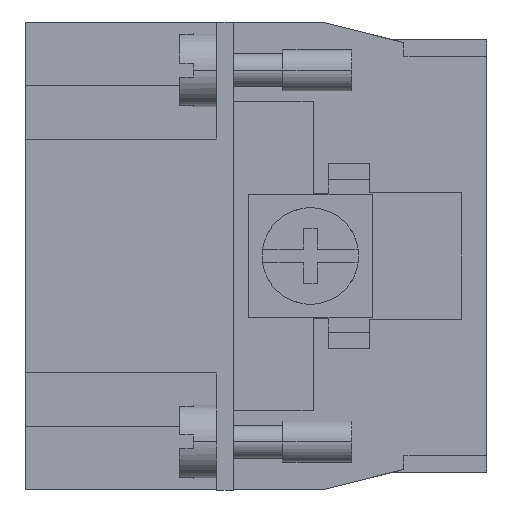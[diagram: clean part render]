
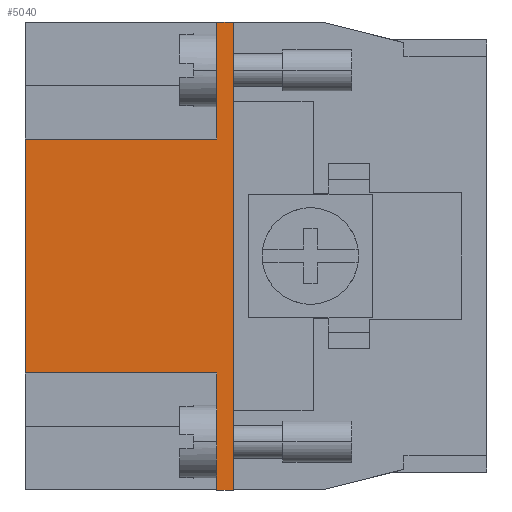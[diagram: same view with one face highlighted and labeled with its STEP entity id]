
A CAD part, left-side view. The second image highlights one B-rep face of the part: STEP entity #5040.
In plain terms, the highlighted planar face has unit normal (-1, 0, 0).
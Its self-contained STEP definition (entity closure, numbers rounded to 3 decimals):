
#6 = EDGE_CURVE ( 'NONE', #2628, #6751, #10240, .T. ) ;
#77 = EDGE_CURVE ( 'NONE', #1078, #6761, #9725, .T. ) ;
#272 = ORIENTED_EDGE ( 'NONE', *, *, #9283, .T. ) ;
#522 = DIRECTION ( 'NONE',  ( 0., 1., 0. ) ) ;
#694 = ORIENTED_EDGE ( 'NONE', *, *, #6, .F. ) ;
#799 = CARTESIAN_POINT ( 'NONE',  ( -25.5, -13.9, 17. ) ) ;
#825 = EDGE_CURVE ( 'NONE', #5358, #3651, #1571, .T. ) ;
#924 = ORIENTED_EDGE ( 'NONE', *, *, #825, .T. ) ;
#1078 = VERTEX_POINT ( 'NONE', #10645 ) ;
#1229 = CARTESIAN_POINT ( 'NONE',  ( -25.5, -13.9, -17. ) ) ;
#1514 = EDGE_LOOP ( 'NONE', ( #10016, #2873, #1913, #4919, #272, #694, #3949, #924 ) ) ;
#1571 = LINE ( 'NONE', #1229, #6891 ) ;
#1913 = ORIENTED_EDGE ( 'NONE', *, *, #3772, .F. ) ;
#2262 = CARTESIAN_POINT ( 'NONE',  ( -25.5, -15.1, -17. ) ) ;
#2291 = LINE ( 'NONE', #6198, #3852 ) ;
#2467 = EDGE_CURVE ( 'NONE', #5358, #2628, #2291, .T. ) ;
#2628 = VERTEX_POINT ( 'NONE', #6493 ) ;
#2775 = AXIS2_PLACEMENT_3D ( 'NONE', #8444, #9121, #6673 ) ;
#2873 = ORIENTED_EDGE ( 'NONE', *, *, #77, .F. ) ;
#3276 = VECTOR ( 'NONE', #4097, 1000. ) ;
#3486 = LINE ( 'NONE', #8117, #10197 ) ;
#3651 = VERTEX_POINT ( 'NONE', #2262 ) ;
#3740 = EDGE_CURVE ( 'NONE', #7647, #5473, #7591, .T. ) ;
#3772 = EDGE_CURVE ( 'NONE', #7647, #1078, #6014, .T. ) ;
#3822 = VECTOR ( 'NONE', #9872, 1000. ) ;
#3852 = VECTOR ( 'NONE', #7121, 1000. ) ;
#3949 = ORIENTED_EDGE ( 'NONE', *, *, #2467, .F. ) ;
#4097 = DIRECTION ( 'NONE',  ( 0., 0., -1. ) ) ;
#4567 = LINE ( 'NONE', #4921, #3276 ) ;
#4919 = ORIENTED_EDGE ( 'NONE', *, *, #3740, .T. ) ;
#4921 = CARTESIAN_POINT ( 'NONE',  ( -25.5, 0., -8.5 ) ) ;
#5040 = ADVANCED_FACE ( 'NONE', ( #10218 ), #7507, .F. ) ;
#5260 = DIRECTION ( 'NONE',  ( 0., -1., 0. ) ) ;
#5309 = CARTESIAN_POINT ( 'NONE',  ( -25.5, -13.9, 8.5 ) ) ;
#5358 = VERTEX_POINT ( 'NONE', #8081 ) ;
#5458 = CARTESIAN_POINT ( 'NONE',  ( -25.5, -36.501, 8.5 ) ) ;
#5473 = VERTEX_POINT ( 'NONE', #7487 ) ;
#5847 = EDGE_CURVE ( 'NONE', #3651, #6761, #3486, .T. ) ;
#5960 = CARTESIAN_POINT ( 'NONE',  ( -25.5, 0., -8.5 ) ) ;
#6014 = LINE ( 'NONE', #799, #3822 ) ;
#6198 = CARTESIAN_POINT ( 'NONE',  ( -25.5, -13.9, 17. ) ) ;
#6279 = VECTOR ( 'NONE', #522, 1000. ) ;
#6493 = CARTESIAN_POINT ( 'NONE',  ( -25.5, -13.9, -8.5 ) ) ;
#6673 = DIRECTION ( 'NONE',  ( 0., 1., 0. ) ) ;
#6751 = VERTEX_POINT ( 'NONE', #5960 ) ;
#6754 = DIRECTION ( 'NONE',  ( 0., 1., 0. ) ) ;
#6761 = VERTEX_POINT ( 'NONE', #9397 ) ;
#6891 = VECTOR ( 'NONE', #5260, 1000. ) ;
#7121 = DIRECTION ( 'NONE',  ( 0., 0., 1. ) ) ;
#7487 = CARTESIAN_POINT ( 'NONE',  ( -25.5, 0., 8.5 ) ) ;
#7507 = PLANE ( 'NONE',  #2775 ) ;
#7591 = LINE ( 'NONE', #5458, #6279 ) ;
#7647 = VERTEX_POINT ( 'NONE', #5309 ) ;
#8081 = CARTESIAN_POINT ( 'NONE',  ( -25.5, -13.9, -17. ) ) ;
#8117 = CARTESIAN_POINT ( 'NONE',  ( -25.5, -15.1, -8.5 ) ) ;
#8444 = CARTESIAN_POINT ( 'NONE',  ( -25.5, -36.501, -8.5 ) ) ;
#9121 = DIRECTION ( 'NONE',  ( 1., 0., 0. ) ) ;
#9245 = DIRECTION ( 'NONE',  ( 0., -1., 0. ) ) ;
#9283 = EDGE_CURVE ( 'NONE', #5473, #6751, #4567, .T. ) ;
#9397 = CARTESIAN_POINT ( 'NONE',  ( -25.5, -15.1, 17. ) ) ;
#9469 = VECTOR ( 'NONE', #6754, 1000. ) ;
#9660 = DIRECTION ( 'NONE',  ( 0., 0., 1. ) ) ;
#9725 = LINE ( 'NONE', #9942, #9983 ) ;
#9872 = DIRECTION ( 'NONE',  ( 0., 0., 1. ) ) ;
#9942 = CARTESIAN_POINT ( 'NONE',  ( -25.5, -13.9, 17. ) ) ;
#9983 = VECTOR ( 'NONE', #9245, 1000. ) ;
#10016 = ORIENTED_EDGE ( 'NONE', *, *, #5847, .T. ) ;
#10022 = CARTESIAN_POINT ( 'NONE',  ( -25.5, -36.501, -8.5 ) ) ;
#10197 = VECTOR ( 'NONE', #9660, 1000. ) ;
#10218 = FACE_OUTER_BOUND ( 'NONE', #1514, .T. ) ;
#10240 = LINE ( 'NONE', #10022, #9469 ) ;
#10645 = CARTESIAN_POINT ( 'NONE',  ( -25.5, -13.9, 17. ) ) ;
